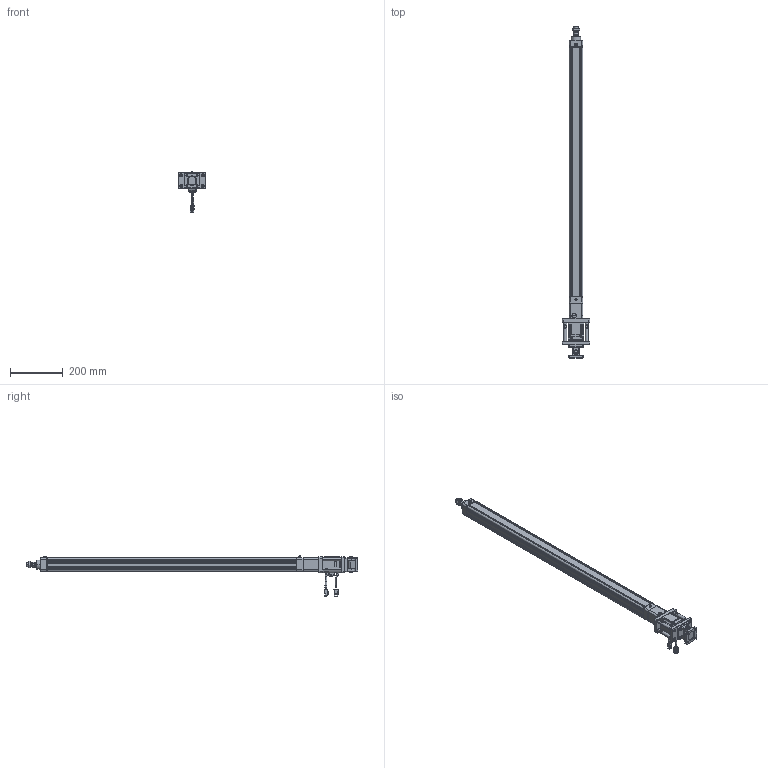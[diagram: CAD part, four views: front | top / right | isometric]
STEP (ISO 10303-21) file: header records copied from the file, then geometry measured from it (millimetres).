
FILE_DESCRIPTION((''),'2;1');
FILE_NAME('HE40-D-100_ASM','2020-05-27T',('ASUS20200'),(''),'CREO PARAMETRIC BY PTC INC, 2014190','CREO PARAMETRIC BY PTC INC, 2014190','');
FILE_SCHEMA(('CONFIG_CONTROL_DESIGN'));
Products named in the file (32): HE40-D-P-001-X1; HE40-D-P-002-X1; HE40-D-P-003-X1; 6200ZZ; HE40-D-009-X1; HE40-D-010-X1; _MHMF022L1A2; _CABLE_MOTOR_BOTTOM_03; _CABLE_MOTOR_TOP_03; _MOTOR_CONNECTOR_2; _CABLE_BRAKE_BOTTOM_03; _CABLE_BRAKE_TOP_03; _MHMF_CONNECTOR_9_PIN_A6; MHMF022L1A2M2_1_ASM; MHMF022L1A2M2_ASM; SLM-01; YZ-M6X1; JDB202820; SKT-13; JX5X5X20; HE40-FB-LG; F-HE40-FB; M6X16; F-SE40CB; F-SE40CB-XD; F-SE40CB_ASM; F-SE40CA; HE40-D-P-005-X1; HE40-D-P-004-X1; HE40-D-P-008-X1; LGLM-M6-22; HE40-D-100_ASM
Assembly tree (48 placements, depth 4):
  HE40-D-100_ASM
    HE40-D-P-001-X1
    HE40-D-P-002-X1
    HE40-D-P-003-X1
    6200ZZ
    HE40-D-009-X1
    HE40-D-010-X1
    MHMF022L1A2M2_ASM
      MHMF022L1A2M2_1_ASM
        _MHMF022L1A2
        _CABLE_MOTOR_BOTTOM_03
        _CABLE_MOTOR_TOP_03
        _MOTOR_CONNECTOR_2
        _CABLE_BRAKE_BOTTOM_03
        _CABLE_BRAKE_TOP_03
        _MHMF_CONNECTOR_9_PIN_A6
    SLM-01
    YZ-M6X1
    JDB202820
    SKT-13
    JX5X5X20
    HE40-FB-LG  x4
    F-HE40-FB
    M6X16  x12
    F-SE40CB_ASM
      F-SE40CB
      F-SE40CB-XD
    F-SE40CA
    HE40-D-P-005-X1
    HE40-D-P-004-X1
    HE40-D-P-008-X1
    LGLM-M6-22  x4
Bounding box: 105 x 1255 x 152.7 mm (x, y, z)
Volume: 1669138.6 mm3; surface area: 666877.3 mm2
Topology: 45 solids, 82 shells, 3011 faces, 7135 edges, 4395 vertices
Faces by surface type: plane 1173, cylinder 910, cone 750, torus 138, sphere 36, bspline 4
Entity records: 77381 total; most frequent: CARTESIAN_POINT 14425, DIRECTION 13912, ORIENTED_EDGE 12302, EDGE_CURVE 6207, AXIS2_PLACEMENT_3D 5258, VERTEX_POINT 3854, VECTOR 3396, LINE 3396
